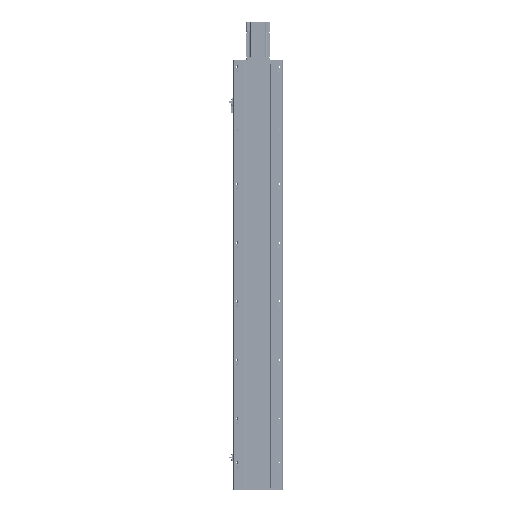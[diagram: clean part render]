
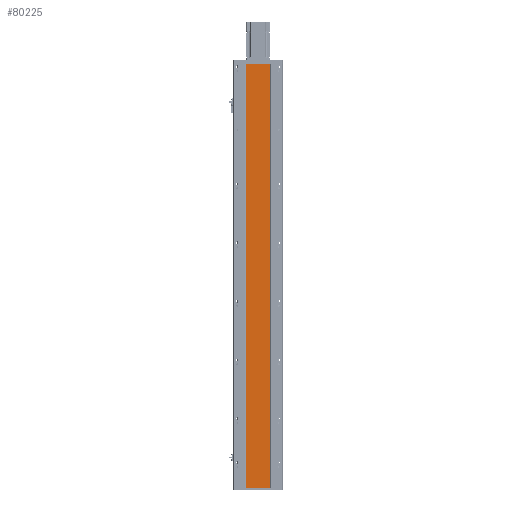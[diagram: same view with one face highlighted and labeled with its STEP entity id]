
A CAD part, front view. The second image highlights one B-rep face of the part: STEP entity #80225.
In plain terms, the highlighted planar face has unit normal (0, -1, 0).
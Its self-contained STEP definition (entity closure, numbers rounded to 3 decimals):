
#3762 = LINE ( 'NONE', #49292, #44020 ) ;
#5993 = DIRECTION ( 'NONE',  ( 0., 0., 1. ) ) ;
#6881 = FACE_OUTER_BOUND ( 'NONE', #22829, .T. ) ;
#7356 = VERTEX_POINT ( 'NONE', #32248 ) ;
#7814 = AXIS2_PLACEMENT_3D ( 'NONE', #94855, #43362, #103429 ) ;
#18167 = CARTESIAN_POINT ( 'NONE',  ( -42., 0., 0. ) ) ;
#22829 = EDGE_LOOP ( 'NONE', ( #48660, #46232, #92620, #60041 ) ) ;
#23085 = CARTESIAN_POINT ( 'NONE',  ( -42., 0., 0. ) ) ;
#23816 = LINE ( 'NONE', #100538, #46603 ) ;
#24680 = LINE ( 'NONE', #35205, #44757 ) ;
#26170 = PLANE ( 'NONE',  #7814 ) ;
#26620 = DIRECTION ( 'NONE',  ( 0., 0., 1. ) ) ;
#32248 = CARTESIAN_POINT ( 'NONE',  ( -42., 0., -1445. ) ) ;
#35205 = CARTESIAN_POINT ( 'NONE',  ( 42., 0., -1445. ) ) ;
#35432 = VERTEX_POINT ( 'NONE', #23085 ) ;
#37065 = VERTEX_POINT ( 'NONE', #72856 ) ;
#43362 = DIRECTION ( 'NONE',  ( 0., -1., 0. ) ) ;
#44020 = VECTOR ( 'NONE', #66507, 1000. ) ;
#44757 = VECTOR ( 'NONE', #26620, 1000. ) ;
#46232 = ORIENTED_EDGE ( 'NONE', *, *, #51455, .F. ) ;
#46603 = VECTOR ( 'NONE', #5993, 1000. ) ;
#48660 = ORIENTED_EDGE ( 'NONE', *, *, #53406, .F. ) ;
#49292 = CARTESIAN_POINT ( 'NONE',  ( -42., 0., -1445. ) ) ;
#51455 = EDGE_CURVE ( 'NONE', #7356, #35432, #23816, .T. ) ;
#53406 = EDGE_CURVE ( 'NONE', #35432, #37065, #66285, .T. ) ;
#60041 = ORIENTED_EDGE ( 'NONE', *, *, #92948, .T. ) ;
#66285 = LINE ( 'NONE', #18167, #109356 ) ;
#66507 = DIRECTION ( 'NONE',  ( 1., 0., 0. ) ) ;
#69560 = DIRECTION ( 'NONE',  ( 1., 0., 0. ) ) ;
#72573 = EDGE_CURVE ( 'NONE', #7356, #84333, #3762, .T. ) ;
#72856 = CARTESIAN_POINT ( 'NONE',  ( 42., 0., 0. ) ) ;
#80225 = ADVANCED_FACE ( 'NONE', ( #6881 ), #26170, .T. ) ;
#83556 = CARTESIAN_POINT ( 'NONE',  ( 42., 0., -1445. ) ) ;
#84333 = VERTEX_POINT ( 'NONE', #83556 ) ;
#92620 = ORIENTED_EDGE ( 'NONE', *, *, #72573, .T. ) ;
#92948 = EDGE_CURVE ( 'NONE', #84333, #37065, #24680, .T. ) ;
#94855 = CARTESIAN_POINT ( 'NONE',  ( -42., 0., -1445. ) ) ;
#100538 = CARTESIAN_POINT ( 'NONE',  ( -42., 0., -1445. ) ) ;
#103429 = DIRECTION ( 'NONE',  ( 0., 0., -1. ) ) ;
#109356 = VECTOR ( 'NONE', #69560, 1000. ) ;
